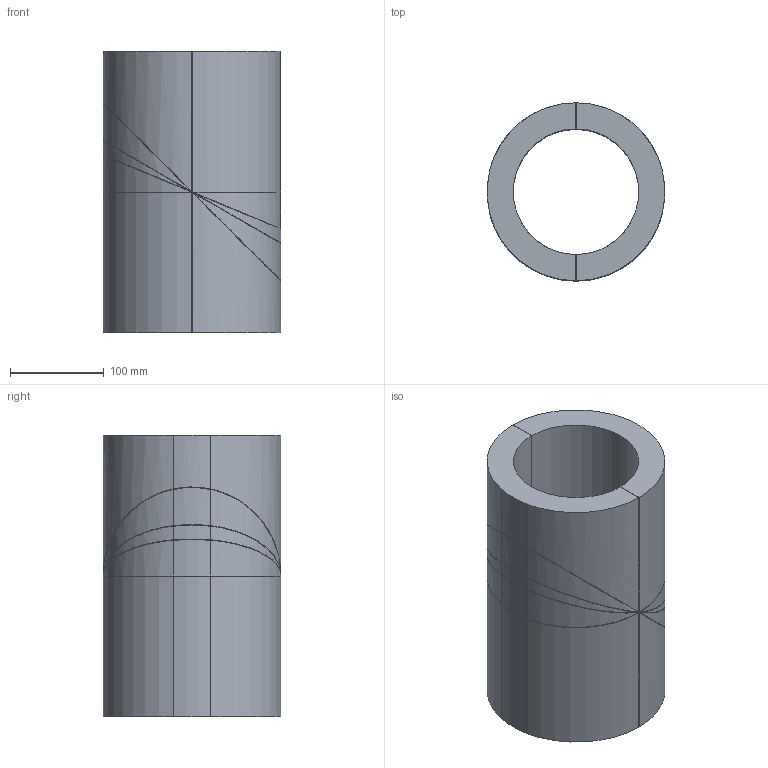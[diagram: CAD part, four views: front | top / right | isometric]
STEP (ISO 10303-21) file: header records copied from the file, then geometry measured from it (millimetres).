
FILE_DESCRIPTION(/* description */ (''),/* implementation_level */ '2;1');
FILE_NAME(/* name */ 'Z:\Geberit\Export\NewStep\310820.stp',/* time_stamp */ '2014-04-01T20:08:47+02:00',/* author */ ('bruh'),/* organization */ (''),/* preprocessor_version */ 'ST-DEVELOPER v15.2',/* originating_system */ 'Autodesk Inventor 2014',/* authorisation */ '');
FILE_SCHEMA (('AUTOMOTIVE_DESIGN { 1 0 10303 214 3 1 1 }'));
Length unit declared in the file: millimetre
Products named in the file (1): 310820
Bounding box: 189.47 x 190 x 300 mm (x, y, z)
Volume: 4227800.2 mm3; surface area: 496679.9 mm2
Topology: 10 solids, 10 shells, 116 faces, 288 edges, 192 vertices
Faces by surface type: plane 56, cylinder 40, bspline 20
Entity records: 3684 total; most frequent: CARTESIAN_POINT 721, DIRECTION 622, ORIENTED_EDGE 576, EDGE_CURVE 288, AXIS2_PLACEMENT_3D 237, VERTEX_POINT 192, LINE 148, VECTOR 148
